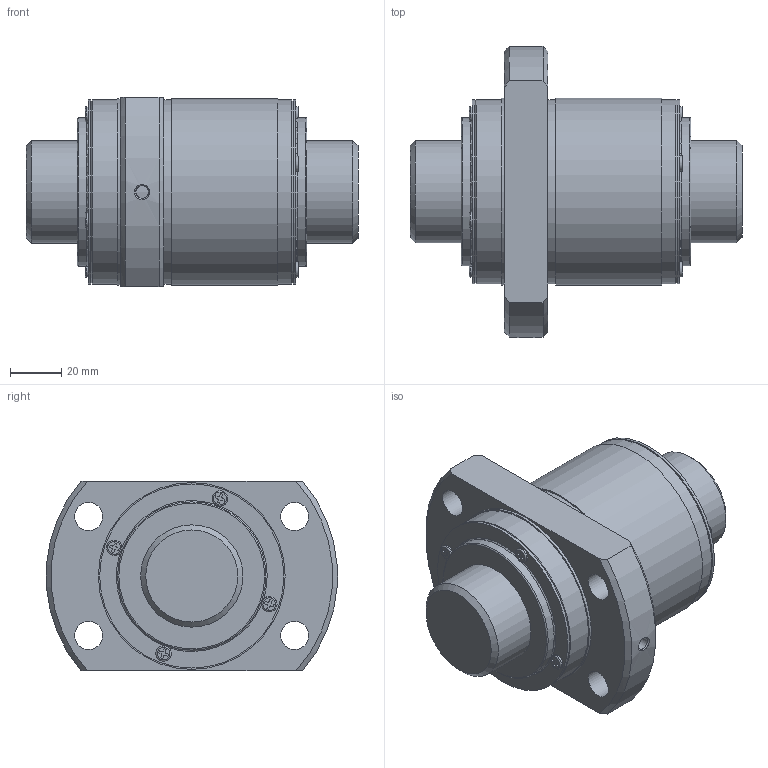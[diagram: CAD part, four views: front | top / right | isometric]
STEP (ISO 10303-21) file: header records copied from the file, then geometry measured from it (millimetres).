
FILE_DESCRIPTION(/* description */ ('STEP AP203'),/* implementation_level */ '2;1');
FILE_NAME(/* name */ 'WTF4080-2ZZ+129.8LC7T_000_rev',/* time_stamp */ '2025-06-11T06:41:18+02:00',/* author */ ('License CC BY-ND 4.0'),/* organization */ ('CADENAS'),/* preprocessor_version */ 'ST-DEVELOPER v19.3',/* originating_system */ 'PARTsolutions',/* authorisation */ ' ');
FILE_SCHEMA (('CONFIG_CONTROL_DESIGN'));
Length unit declared in the file: millimetre
Products named in the file (3): WTF4080-2ZZ+129.8LC7T_000_rev; WTF4080-20ZZ0 Shaft; WTF4080-2ZZ Nut
Assembly tree (2 placements, depth 2):
  WTF4080-2ZZ+129.8LC7T_000_rev
    WTF4080-20ZZ0 Shaft
    WTF4080-2ZZ Nut
Bounding box: 129.8 x 113.82 x 74 mm (x, y, z)
Volume: 463719.8 mm3; surface area: 67115.2 mm2
Topology: 2 solids, 2 shells, 206 faces, 539 edges, 354 vertices
Faces by surface type: plane 127, cylinder 58, torus 12, cone 9
Full cylindrical faces by diameter (mm): 4.917 x1, 6 x8, 11 x4, 40 x2, 58 x2, 72 x5, 73 x2
Entity records: 6151 total; most frequent: CARTESIAN_POINT 1115, DIRECTION 1028, ORIENTED_EDGE 974, EDGE_CURVE 487, AXIS2_PLACEMENT_3D 350, VERTEX_POINT 343, LINE 328, VECTOR 328
